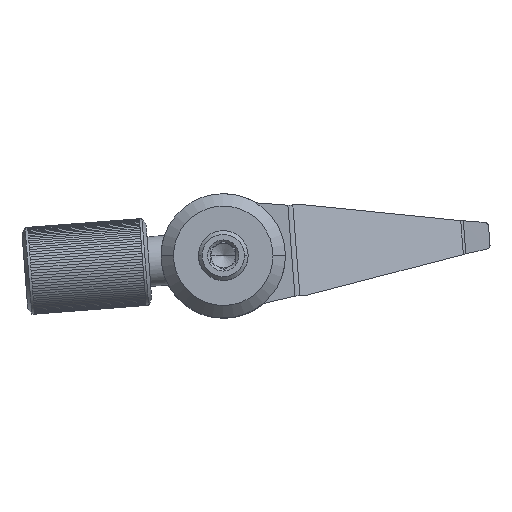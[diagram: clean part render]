
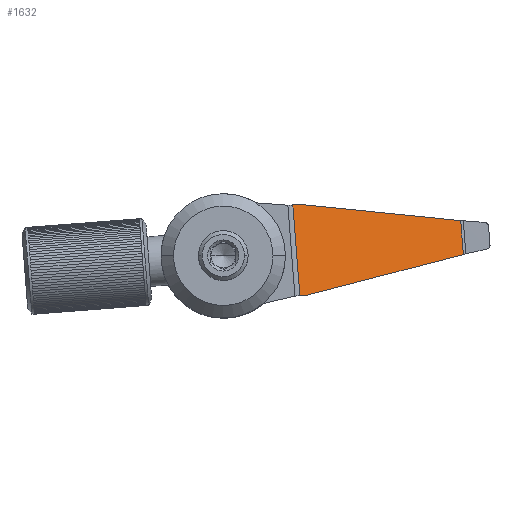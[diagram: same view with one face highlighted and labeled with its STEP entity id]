
A CAD part, top view. The second image highlights one B-rep face of the part: STEP entity #1632.
In plain terms, the highlighted planar face has unit normal (0.398, 0.031, 0.917).
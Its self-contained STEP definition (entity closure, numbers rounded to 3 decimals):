
#1549 = VERTEX_POINT ( 'NONE', #5591 ) ;
#1551 = EDGE_CURVE ( 'NONE', #1560, #1549, #5590, .T. ) ;
#1560 = VERTEX_POINT ( 'NONE', #5624 ) ;
#1562 = EDGE_CURVE ( 'NONE', #1575, #1560, #5623, .T. ) ;
#1575 = VERTEX_POINT ( 'NONE', #5608 ) ;
#1577 = EDGE_CURVE ( 'NONE', #1578, #1575, #5638, .T. ) ;
#1578 = VERTEX_POINT ( 'NONE', #5634 ) ;
#1599 = EDGE_CURVE ( 'NONE', #1623, #1578, #5682, .T. ) ;
#1614 = VERTEX_POINT ( 'NONE', #5745 ) ;
#1616 = EDGE_CURVE ( 'NONE', #1549, #1614, #5739, .T. ) ;
#1623 = VERTEX_POINT ( 'NONE', #5725 ) ;
#1632 = ADVANCED_FACE ( 'NONE', ( #5774 ), #5773, .T. ) ;
#1633 = EDGE_LOOP ( 'NONE', ( #1634, #1636, #1637, #1638, #1639, #1693 ) ) ;
#1634 = ORIENTED_EDGE ( 'NONE', *, *, #1635, .F. ) ;
#1635 = EDGE_CURVE ( 'NONE', #1623, #1614, #5759, .T. ) ;
#1636 = ORIENTED_EDGE ( 'NONE', *, *, #1599, .T. ) ;
#1637 = ORIENTED_EDGE ( 'NONE', *, *, #1577, .T. ) ;
#1638 = ORIENTED_EDGE ( 'NONE', *, *, #1562, .T. ) ;
#1639 = ORIENTED_EDGE ( 'NONE', *, *, #1551, .T. ) ;
#1693 = ORIENTED_EDGE ( 'NONE', *, *, #1616, .T. ) ;
#5587 = DIRECTION ( 'NONE',  ( -0.915, 0.092, 0.393 ) ) ;
#5588 = VECTOR ( 'NONE', #5587, 1000. ) ;
#5589 = CARTESIAN_POINT ( 'NONE',  ( 19.095, 2.851, 20.852 ) ) ;
#5590 = LINE ( 'NONE', #5589, #5588 ) ;
#5591 = CARTESIAN_POINT ( 'NONE',  ( 6.208, 4.147, 26.396 ) ) ;
#5608 = CARTESIAN_POINT ( 'NONE',  ( 19.306, 0.125, 20.852 ) ) ;
#5615 = DIRECTION ( 'NONE',  ( -0.077, 0.997, 0. ) ) ;
#5616 = VECTOR ( 'NONE', #5615, 1000. ) ;
#5617 = CARTESIAN_POINT ( 'NONE',  ( 19.306, 0.125, 20.852 ) ) ;
#5623 = LINE ( 'NONE', #5617, #5616 ) ;
#5624 = CARTESIAN_POINT ( 'NONE',  ( 19.095, 2.851, 20.852 ) ) ;
#5634 = CARTESIAN_POINT ( 'NONE',  ( 6.773, -3.141, 26.396 ) ) ;
#5635 = DIRECTION ( 'NONE',  ( 0.89, 0.232, -0.393 ) ) ;
#5636 = VECTOR ( 'NONE', #5635, 1000. ) ;
#5637 = CARTESIAN_POINT ( 'NONE',  ( 6.773, -3.141, 26.396 ) ) ;
#5638 = LINE ( 'NONE', #5637, #5636 ) ;
#5675 = DIRECTION ( 'NONE',  ( 0.914, 0.071, -0.399 ) ) ;
#5676 = VECTOR ( 'NONE', #5675, 1000. ) ;
#5677 = CARTESIAN_POINT ( 'NONE',  ( 6.16, -3.188, 26.663 ) ) ;
#5682 = LINE ( 'NONE', #5677, #5676 ) ;
#5718 = AXIS2_PLACEMENT_3D ( 'NONE', #5762, #5761, #5760 ) ;
#5725 = CARTESIAN_POINT ( 'NONE',  ( 6.16, -3.188, 26.663 ) ) ;
#5736 = DIRECTION ( 'NONE',  ( -0.914, -0.071, 0.399 ) ) ;
#5737 = VECTOR ( 'NONE', #5736, 1000. ) ;
#5738 = CARTESIAN_POINT ( 'NONE',  ( 6.208, 4.147, 26.396 ) ) ;
#5739 = LINE ( 'NONE', #5738, #5737 ) ;
#5745 = CARTESIAN_POINT ( 'NONE',  ( 5.595, 4.099, 26.663 ) ) ;
#5756 = DIRECTION ( 'NONE',  ( -0.077, 0.997, 0. ) ) ;
#5757 = VECTOR ( 'NONE', #5756, 1000. ) ;
#5758 = CARTESIAN_POINT ( 'NONE',  ( 5.877, 0.456, 26.663 ) ) ;
#5759 = LINE ( 'NONE', #5758, #5757 ) ;
#5760 = DIRECTION ( 'NONE',  ( 0.917, 0., -0.398 ) ) ;
#5761 = DIRECTION ( 'NONE',  ( 0.398, 0.031, 0.917 ) ) ;
#5762 = CARTESIAN_POINT ( 'NONE',  ( 12.539, 0.972, 23.758 ) ) ;
#5773 = PLANE ( 'NONE',  #5718 ) ;
#5774 = FACE_OUTER_BOUND ( 'NONE', #1633, .T. ) ;
